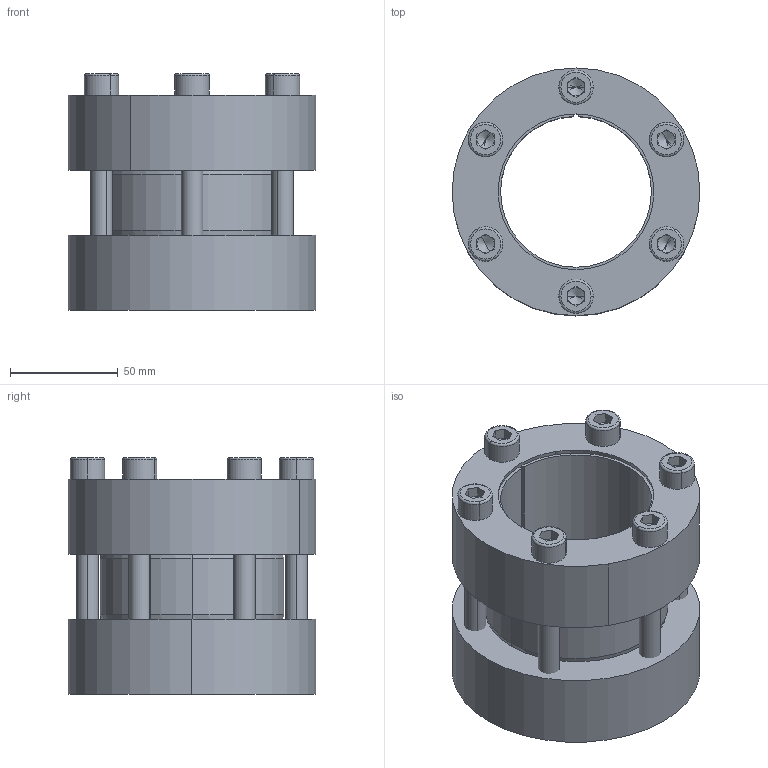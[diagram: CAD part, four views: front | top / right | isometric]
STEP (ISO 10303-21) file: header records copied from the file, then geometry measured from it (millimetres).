
FILE_DESCRIPTION (( 'STEP AP214' ), '1' );
FILE_NAME ('CONEX-M-70x115.step', '2013-04-06T13:25:52', ( 'Pc' ), ( '' ), 'SwSTEP 2.0', 'SolidWorks 2013', '' );
FILE_SCHEMA (( 'AUTOMOTIVE_DESIGN' ));
Length unit declared in the file: millimetre
Products named in the file (1): CONEX-M-70x115
Bounding box: 115 x 115 x 109.99 mm (x, y, z)
Volume: 526698.7 mm3; surface area: 144252 mm2
Topology: 9 solids, 9 shells, 214 faces, 482 edges, 286 vertices
Faces by surface type: plane 98, cylinder 58, cone 34, torus 24
Entity records: 8399 total; most frequent: DIRECTION 1122, CARTESIAN_POINT 998, ORIENTED_EDGE 940, EDGE_CURVE 470, AXIS2_PLACEMENT_3D 441, VERTEX_POINT 286, EDGE_LOOP 254, VECTOR 240
